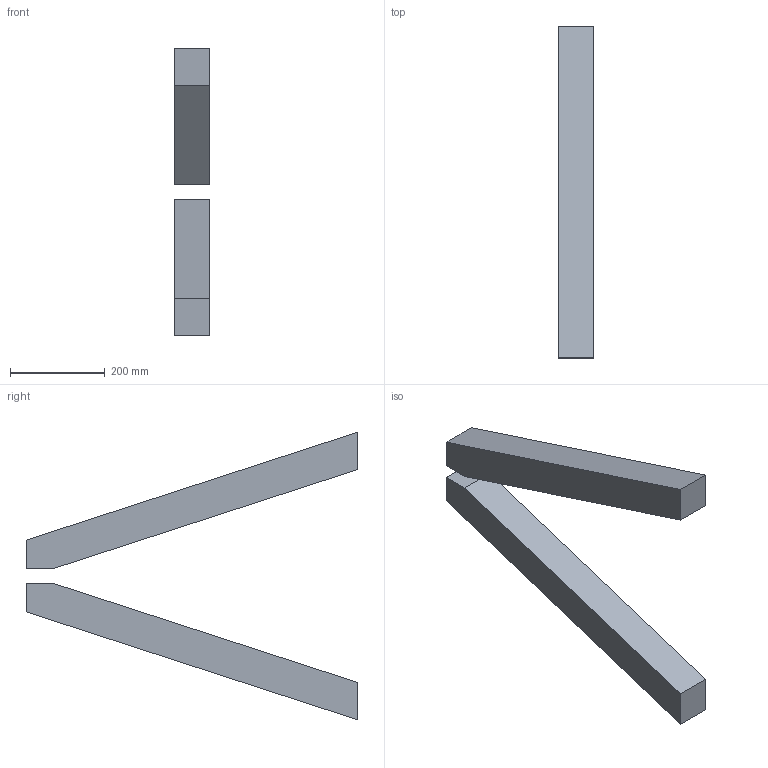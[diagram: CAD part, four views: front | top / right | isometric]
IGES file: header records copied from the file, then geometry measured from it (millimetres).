
Start section: SolidWorks IGES file using NURBS representation for surfaces
Global section: file name: W:\01-VICCARBE\PRODUCTOS\45-TRESTLE\04-MODELADOS (PLANOS)\WEB\table\3D\IGES\viccarbe_trestle_table_legs_component.IGS; native system: SolidWorks 2013; preprocessor: SolidWorks 2013; author: Usuario; date: 140918.102011; units: millimetre
Bounding box: 75 x 700 x 606.8 mm (x, y, z)
Surface area: 460188.5 mm2 (no closed solid volume)
Topology: 0 solids, 0 shells, 14 faces, 60 edges, 60 vertices
Faces by surface type: bspline 14
